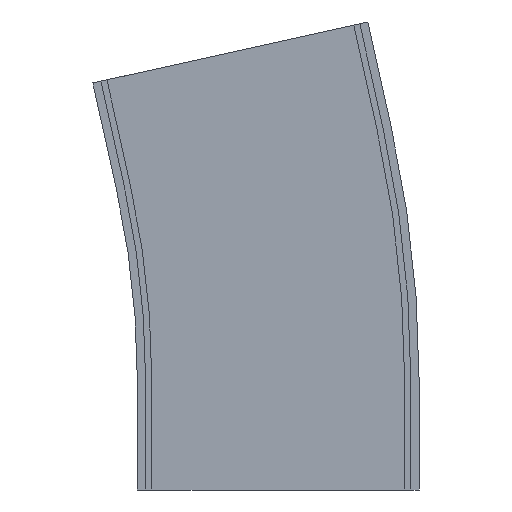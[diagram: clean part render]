
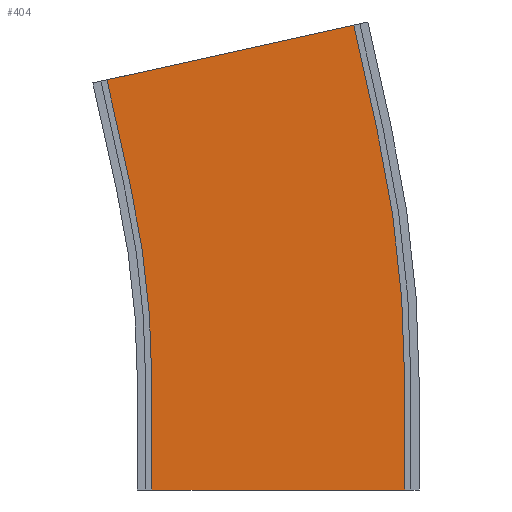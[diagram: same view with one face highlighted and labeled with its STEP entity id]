
A CAD part, left-side view. The second image highlights one B-rep face of the part: STEP entity #404.
In plain terms, the highlighted planar face has unit normal (-1, 0, 0).
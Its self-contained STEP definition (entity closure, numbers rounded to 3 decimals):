
#1 = VERTEX_POINT ( 'NONE', #533 ) ;
#14 = CARTESIAN_POINT ( 'NONE',  ( -211.5, -36.583, 225.232 ) ) ;
#29 = DIRECTION ( 'NONE',  ( 0., 0., -1. ) ) ;
#87 = CARTESIAN_POINT ( 'NONE',  ( -211.5, -61.25, 52.5 ) ) ;
#89 = CIRCLE ( 'NONE', #543, 438.75 ) ;
#93 = LINE ( 'NONE', #336, #149 ) ;
#113 = ORIENTED_EDGE ( 'NONE', *, *, #284, .T. ) ;
#121 = DIRECTION ( 'NONE',  ( 0., 0., 1. ) ) ;
#143 = PLANE ( 'NONE',  #953 ) ;
#147 = DIRECTION ( 'NONE',  ( -1., 0., 0. ) ) ;
#149 = VECTOR ( 'NONE', #876, 1000. ) ;
#167 = CARTESIAN_POINT ( 'NONE',  ( -211.5, -61.25, 0. ) ) ;
#185 = DIRECTION ( 'NONE',  ( 0., 0., -1. ) ) ;
#197 = CIRCLE ( 'NONE', #403, 561.25 ) ;
#220 = CARTESIAN_POINT ( 'NONE',  ( -211.5, 61.25, 52.5 ) ) ;
#252 = CARTESIAN_POINT ( 'NONE',  ( -211.5, 61.25, 52.5 ) ) ;
#284 = EDGE_CURVE ( 'NONE', #1, #440, #421, .T. ) ;
#310 = VERTEX_POINT ( 'NONE', #1148 ) ;
#336 = CARTESIAN_POINT ( 'NONE',  ( -211.5, 71.65, 147.463 ) ) ;
#346 = CARTESIAN_POINT ( 'NONE',  ( -211.5, 83.013, 198.718 ) ) ;
#367 = ORIENTED_EDGE ( 'NONE', *, *, #936, .F. ) ;
#368 = DIRECTION ( 'NONE',  ( 0., 0., 1. ) ) ;
#382 = DIRECTION ( 'NONE',  ( 0., -1., 0. ) ) ;
#392 = LINE ( 'NONE', #252, #901 ) ;
#403 = AXIS2_PLACEMENT_3D ( 'NONE', #688, #147, #368 ) ;
#404 = ADVANCED_FACE ( 'NONE', ( #839 ), #143, .F. ) ;
#421 = LINE ( 'NONE', #167, #962 ) ;
#440 = VERTEX_POINT ( 'NONE', #1273 ) ;
#527 = CARTESIAN_POINT ( 'NONE',  ( -211.5, -61.25, 52.5 ) ) ;
#533 = CARTESIAN_POINT ( 'NONE',  ( -211.5, 61.25, 0. ) ) ;
#543 = AXIS2_PLACEMENT_3D ( 'NONE', #558, #652, #121 ) ;
#558 = CARTESIAN_POINT ( 'NONE',  ( -211.5, 500., 52.5 ) ) ;
#563 = LINE ( 'NONE', #1195, #633 ) ;
#612 = CARTESIAN_POINT ( 'NONE',  ( -211.5, -47.946, 173.977 ) ) ;
#633 = VECTOR ( 'NONE', #1395, 1000. ) ;
#641 = VERTEX_POINT ( 'NONE', #346 ) ;
#647 = ORIENTED_EDGE ( 'NONE', *, *, #838, .F. ) ;
#652 = DIRECTION ( 'NONE',  ( -1., 0., 0. ) ) ;
#680 = DIRECTION ( 'NONE',  ( 1., 0., 0. ) ) ;
#688 = CARTESIAN_POINT ( 'NONE',  ( -211.5, 500., 52.5 ) ) ;
#706 = CARTESIAN_POINT ( 'NONE',  ( -211.5, -47.946, 173.977 ) ) ;
#718 = EDGE_CURVE ( 'NONE', #1253, #995, #1271, .T. ) ;
#776 = ORIENTED_EDGE ( 'NONE', *, *, #973, .T. ) ;
#838 = EDGE_CURVE ( 'NONE', #984, #310, #89, .T. ) ;
#839 = FACE_OUTER_BOUND ( 'NONE', #931, .T. ) ;
#866 = EDGE_CURVE ( 'NONE', #310, #641, #93, .T. ) ;
#869 = VECTOR ( 'NONE', #185, 1000. ) ;
#876 = DIRECTION ( 'NONE',  ( 0., 0.216, 0.976 ) ) ;
#881 = ORIENTED_EDGE ( 'NONE', *, *, #866, .F. ) ;
#901 = VECTOR ( 'NONE', #29, 1000. ) ;
#931 = EDGE_LOOP ( 'NONE', ( #113, #981, #776, #1035, #367, #881, #647, #1335 ) ) ;
#936 = EDGE_CURVE ( 'NONE', #641, #995, #563, .T. ) ;
#953 = AXIS2_PLACEMENT_3D ( 'NONE', #1321, #680, #1221 ) ;
#962 = VECTOR ( 'NONE', #382, 1000. ) ;
#973 = EDGE_CURVE ( 'NONE', #1351, #1253, #197, .T. ) ;
#981 = ORIENTED_EDGE ( 'NONE', *, *, #1319, .F. ) ;
#983 = VECTOR ( 'NONE', #1137, 1000. ) ;
#984 = VERTEX_POINT ( 'NONE', #220 ) ;
#995 = VERTEX_POINT ( 'NONE', #14 ) ;
#1007 = EDGE_CURVE ( 'NONE', #984, #1, #392, .T. ) ;
#1035 = ORIENTED_EDGE ( 'NONE', *, *, #718, .T. ) ;
#1117 = LINE ( 'NONE', #87, #869 ) ;
#1137 = DIRECTION ( 'NONE',  ( 0., 0.216, 0.976 ) ) ;
#1148 = CARTESIAN_POINT ( 'NONE',  ( -211.5, 71.65, 147.463 ) ) ;
#1195 = CARTESIAN_POINT ( 'NONE',  ( -211.5, -36.583, 225.232 ) ) ;
#1221 = DIRECTION ( 'NONE',  ( 0., 1., 0. ) ) ;
#1253 = VERTEX_POINT ( 'NONE', #612 ) ;
#1271 = LINE ( 'NONE', #706, #983 ) ;
#1273 = CARTESIAN_POINT ( 'NONE',  ( -211.5, -61.25, 0. ) ) ;
#1319 = EDGE_CURVE ( 'NONE', #1351, #440, #1117, .T. ) ;
#1321 = CARTESIAN_POINT ( 'NONE',  ( -211.5, -61.25, 52.5 ) ) ;
#1335 = ORIENTED_EDGE ( 'NONE', *, *, #1007, .T. ) ;
#1351 = VERTEX_POINT ( 'NONE', #527 ) ;
#1395 = DIRECTION ( 'NONE',  ( 0., -0.976, 0.216 ) ) ;
